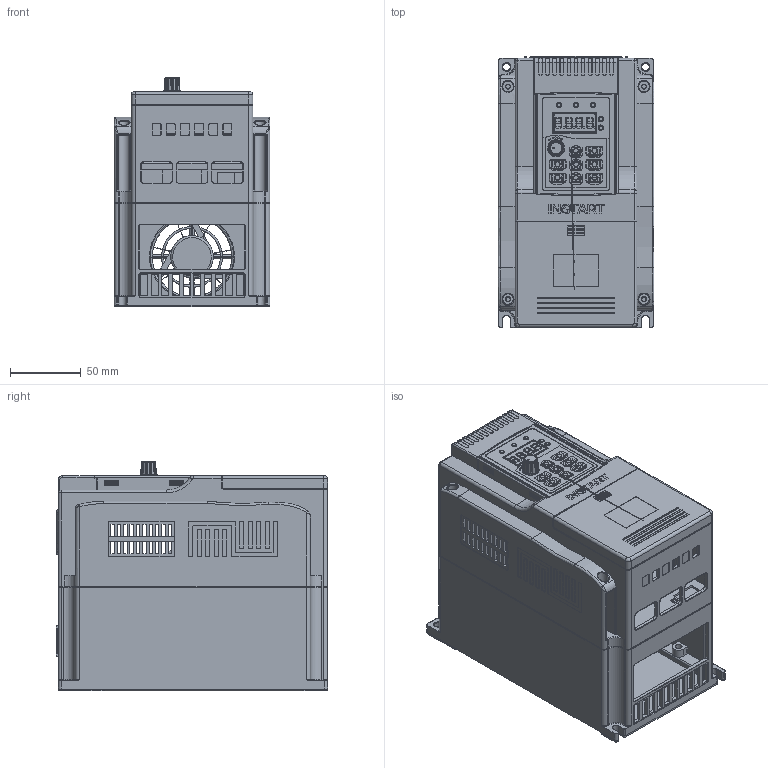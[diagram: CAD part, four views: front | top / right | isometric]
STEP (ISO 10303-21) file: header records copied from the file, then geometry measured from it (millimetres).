
FILE_DESCRIPTION(('STEP AP203'), '1');
FILE_NAME('Ïðåîáðàçîâàòåëü ÷àñòîòû _ SDI-G2.2-2B', '', ('UNSPECIFIED'), ('UNSPECIFIED'), 'C3D Converter', 'C3D Toolkit', '');
FILE_SCHEMA(('CONFIG_CONTROL_DESIGN'));
Length unit declared in the file: millimetre
Products named in the file (1): SDI-G4.0-4B
Bounding box: 110 x 191.4 x 162 mm (x, y, z)
Volume: 298567.8 mm3; surface area: 429485.3 mm2
Topology: 18 solids, 20 shells, 5097 faces, 13783 edges, 8870 vertices
Faces by surface type: plane 2966, cylinder 1257, bspline 438, torus 372, sphere 34, cone 30
Full cylindrical faces by diameter (mm): 0.4 x1, 0.5 x12, 0.6 x1, 0.8 x1, 1 x1, 1.2 x9, 1.4 x1, 1.9 x10, 2.5 x9, 3 x5, 3.2 x1, 3.5 x18, 3.6 x8, 4 x11, 4.2 x9, 4.5 x13, 4.8 x4, 5 x4, 5.2 x4, 5.5 x1, 6.5 x2, 7 x4, 7.2 x1, 7.5 x12, 8.5 x1, 8.671 x1, 9 x2, 12 x1, 30 x1, 37 x2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
Entity records: 245448 total; most frequent: CARTESIAN_POINT 80367, ORIENTED_EDGE 27122, DIRECTION 23224, EDGE_CURVE 13563, LINE 8980, VECTOR 8980, VERTEX_POINT 8859, AXIS2_PLACEMENT_3D 7122
